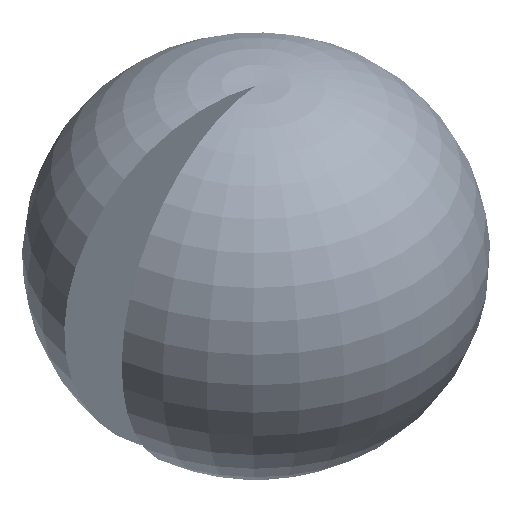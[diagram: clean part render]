
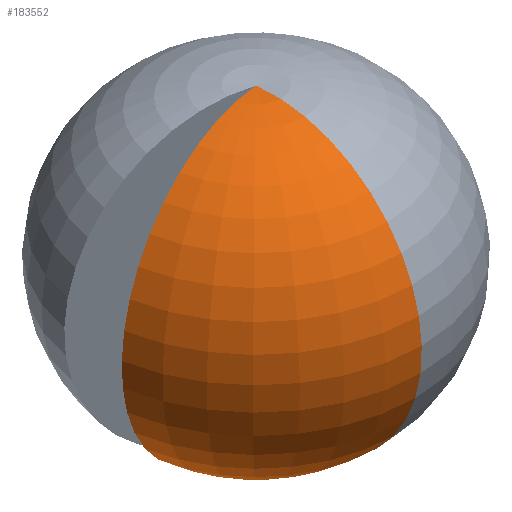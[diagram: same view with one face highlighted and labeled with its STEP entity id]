
A CAD part, isometric view. The second image highlights one B-rep face of the part: STEP entity #183552.
In plain terms, the highlighted toroidal (fillet/blend) face has major radius 280 mm and minor radius 2421.05 mm.
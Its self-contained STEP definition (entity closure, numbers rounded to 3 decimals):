
#27705 = CARTESIAN_POINT ( 'NONE',  ( 0., -1668.66, -1313.211 ) ) ;
#35843 = DIRECTION ( 'NONE',  ( 0., 0., -1. ) ) ;
#40779 = CARTESIAN_POINT ( 'NONE',  ( 0., 0., 670. ) ) ;
#43356 = CARTESIAN_POINT ( 'NONE',  ( 0., 0., 3074.808 ) ) ;
#56917 = DIRECTION ( 'NONE',  ( 1., 0., 0. ) ) ;
#59675 = ORIENTED_EDGE ( 'NONE', *, *, #99473, .F. ) ;
#74908 = CARTESIAN_POINT ( 'NONE',  ( -1643.309, -289.76, -1313.211 ) ) ;
#92833 = DIRECTION ( 'NONE',  ( 0., 1., 0. ) ) ;
#96424 = EDGE_CURVE ( 'NONE', #370106, #238271, #348624, .T. ) ;
#99473 = EDGE_CURVE ( 'NONE', #238271, #183549, #107231, .T. ) ;
#103935 = EDGE_CURVE ( 'NONE', #183549, #370106, #194019, .T. ) ;
#107231 = CIRCLE ( 'NONE', #210143, 1668.66 ) ;
#113648 = CARTESIAN_POINT ( 'NONE',  ( -275.746, -48.621, 670. ) ) ;
#121335 = CARTESIAN_POINT ( 'NONE',  ( 0., -280., 670. ) ) ;
#122968 = ORIENTED_EDGE ( 'NONE', *, *, #96424, .F. ) ;
#138013 = EDGE_LOOP ( 'NONE', ( #122968, #350349, #59675 ) ) ;
#142038 = AXIS2_PLACEMENT_3D ( 'NONE', #121335, #56917, #181988 ) ;
#168361 = AXIS2_PLACEMENT_3D ( 'NONE', #40779, #301075, #190594 ) ;
#181988 = DIRECTION ( 'NONE',  ( 0., 1., 0. ) ) ;
#183549 = VERTEX_POINT ( 'NONE', #74908 ) ;
#183552 = ADVANCED_FACE ( 'NONE', ( #185022 ), #369107, .T. ) ;
#185022 = FACE_OUTER_BOUND ( 'NONE', #138013, .T. ) ;
#190594 = DIRECTION ( 'NONE',  ( 0., 1., 0. ) ) ;
#194019 = CIRCLE ( 'NONE', #285352, 2421.054 ) ;
#210143 = AXIS2_PLACEMENT_3D ( 'NONE', #296106, #35843, #92833 ) ;
#236954 = DIRECTION ( 'NONE',  ( -0.174, 0.985, 0. ) ) ;
#238271 = VERTEX_POINT ( 'NONE', #27705 ) ;
#285352 = AXIS2_PLACEMENT_3D ( 'NONE', #113648, #236954, #315167 ) ;
#296106 = CARTESIAN_POINT ( 'NONE',  ( 0., 0., -1313.211 ) ) ;
#301075 = DIRECTION ( 'NONE',  ( 0., 0., -1. ) ) ;
#315167 = DIRECTION ( 'NONE',  ( -0.985, -0.174, 0. ) ) ;
#348624 = CIRCLE ( 'NONE', #142038, 2421.054 ) ;
#350349 = ORIENTED_EDGE ( 'NONE', *, *, #103935, .F. ) ;
#369107 = TOROIDAL_SURFACE ( 'NONE', #168361, 280., 2421.054 ) ;
#370106 = VERTEX_POINT ( 'NONE', #43356 ) ;
